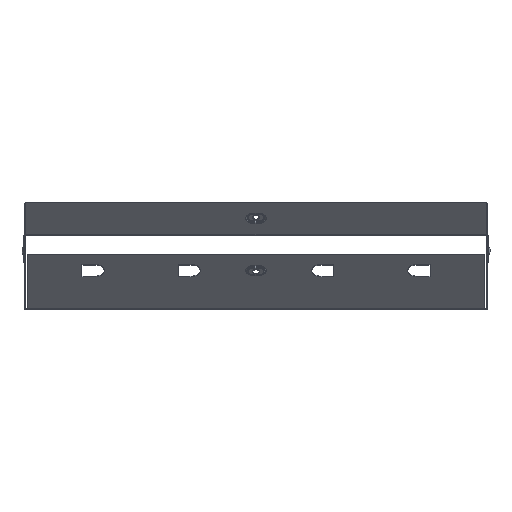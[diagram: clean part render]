
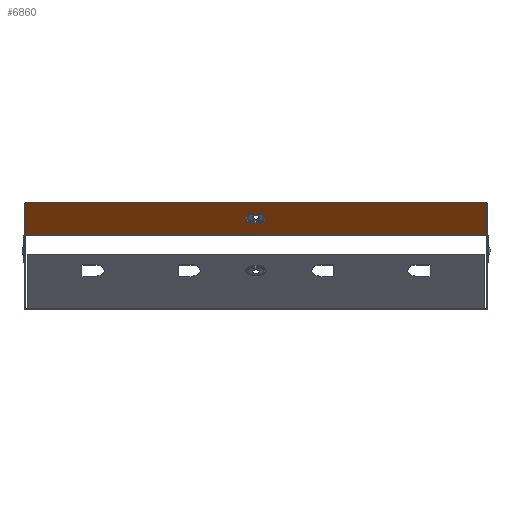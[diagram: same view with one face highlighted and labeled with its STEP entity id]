
A CAD part, top view. The second image highlights one B-rep face of the part: STEP entity #6860.
In plain terms, the highlighted planar face has unit normal (0, -0.707, 0.707).
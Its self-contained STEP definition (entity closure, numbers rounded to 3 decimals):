
#6 = VERTEX_POINT ( 'NONE', #11691 ) ;
#179 = CIRCLE ( 'NONE', #8017, 7.598 ) ;
#507 = VERTEX_POINT ( 'NONE', #793 ) ;
#708 = EDGE_CURVE ( 'NONE', #12702, #6, #8414, .T. ) ;
#793 = CARTESIAN_POINT ( 'NONE',  ( 3.5, 12.446, 76.078 ) ) ;
#865 = DIRECTION ( 'NONE',  ( 0., 0.707, -0.707 ) ) ;
#1102 = FACE_BOUND ( 'NONE', #3610, .T. ) ;
#1114 = CARTESIAN_POINT ( 'NONE',  ( -249., -0.273, 63.359 ) ) ;
#1522 = CARTESIAN_POINT ( 'NONE',  ( -3.5, 23.192, 86.823 ) ) ;
#1863 = DIRECTION ( 'NONE',  ( 0., -0.707, -0.707 ) ) ;
#1902 = CARTESIAN_POINT ( 'NONE',  ( 249., -0.273, 63.359 ) ) ;
#2143 = DIRECTION ( 'NONE',  ( -1., 0., 0. ) ) ;
#2145 = LINE ( 'NONE', #4977, #5586 ) ;
#2257 = ORIENTED_EDGE ( 'NONE', *, *, #13338, .F. ) ;
#2366 = ORIENTED_EDGE ( 'NONE', *, *, #708, .T. ) ;
#2446 = VECTOR ( 'NONE', #2143, 1000. ) ;
#2725 = CARTESIAN_POINT ( 'NONE',  ( 3.5, 17.819, 81.45 ) ) ;
#2915 = CARTESIAN_POINT ( 'NONE',  ( 249., -0.566, 63.066 ) ) ;
#2948 = CARTESIAN_POINT ( 'NONE',  ( -249., -0.566, 63.066 ) ) ;
#3074 = CARTESIAN_POINT ( 'NONE',  ( -3.5, 17.819, 81.45 ) ) ;
#3269 = VERTEX_POINT ( 'NONE', #1114 ) ;
#3610 = EDGE_LOOP ( 'NONE', ( #2257, #9289, #14068, #11388 ) ) ;
#3950 = VECTOR ( 'NONE', #7673, 1000. ) ;
#4334 = LINE ( 'NONE', #1522, #3950 ) ;
#4977 = CARTESIAN_POINT ( 'NONE',  ( -3.5, 12.446, 76.078 ) ) ;
#5298 = CARTESIAN_POINT ( 'NONE',  ( 3.5, 23.192, 86.823 ) ) ;
#5325 = DIRECTION ( 'NONE',  ( 0., -0.707, -0.707 ) ) ;
#5395 = AXIS2_PLACEMENT_3D ( 'NONE', #5547, #865, #7685 ) ;
#5449 = FACE_OUTER_BOUND ( 'NONE', #10042, .T. ) ;
#5547 = CARTESIAN_POINT ( 'NONE',  ( 249., -0.566, 63.066 ) ) ;
#5586 = VECTOR ( 'NONE', #6150, 1000. ) ;
#5678 = DIRECTION ( 'NONE',  ( -1., 0., 0. ) ) ;
#5716 = CARTESIAN_POINT ( 'NONE',  ( 249., 34.79, 98.421 ) ) ;
#6018 = VECTOR ( 'NONE', #5678, 1000. ) ;
#6150 = DIRECTION ( 'NONE',  ( 1., 0., 0. ) ) ;
#6159 = AXIS2_PLACEMENT_3D ( 'NONE', #2725, #6423, #8880 ) ;
#6423 = DIRECTION ( 'NONE',  ( 0., -0.707, 0.707 ) ) ;
#6694 = ORIENTED_EDGE ( 'NONE', *, *, #12769, .F. ) ;
#6860 = ADVANCED_FACE ( 'NONE', ( #1102, #5449 ), #10194, .F. ) ;
#7360 = EDGE_CURVE ( 'NONE', #6, #3269, #12100, .T. ) ;
#7477 = ORIENTED_EDGE ( 'NONE', *, *, #8728, .F. ) ;
#7672 = EDGE_CURVE ( 'NONE', #13164, #9117, #4334, .T. ) ;
#7673 = DIRECTION ( 'NONE',  ( -1., 0., 0. ) ) ;
#7685 = DIRECTION ( 'NONE',  ( 0., 0.707, 0.707 ) ) ;
#7886 = VERTEX_POINT ( 'NONE', #7938 ) ;
#7938 = CARTESIAN_POINT ( 'NONE',  ( -3.5, 12.446, 76.078 ) ) ;
#8017 = AXIS2_PLACEMENT_3D ( 'NONE', #3074, #8830, #1863 ) ;
#8126 = VECTOR ( 'NONE', #13542, 1000. ) ;
#8414 = LINE ( 'NONE', #9129, #2446 ) ;
#8517 = EDGE_CURVE ( 'NONE', #7886, #507, #2145, .T. ) ;
#8714 = VECTOR ( 'NONE', #5325, 1000. ) ;
#8728 = EDGE_CURVE ( 'NONE', #12702, #14979, #9810, .T. ) ;
#8830 = DIRECTION ( 'NONE',  ( 0., -0.707, 0.707 ) ) ;
#8880 = DIRECTION ( 'NONE',  ( 0., -0.707, -0.707 ) ) ;
#9117 = VERTEX_POINT ( 'NONE', #9600 ) ;
#9129 = CARTESIAN_POINT ( 'NONE',  ( 249., 34.79, 98.421 ) ) ;
#9289 = ORIENTED_EDGE ( 'NONE', *, *, #8517, .F. ) ;
#9533 = ORIENTED_EDGE ( 'NONE', *, *, #7360, .T. ) ;
#9600 = CARTESIAN_POINT ( 'NONE',  ( -3.5, 23.192, 86.823 ) ) ;
#9810 = LINE ( 'NONE', #2915, #8126 ) ;
#10042 = EDGE_LOOP ( 'NONE', ( #9533, #6694, #7477, #2366 ) ) ;
#10077 = CIRCLE ( 'NONE', #6159, 7.598 ) ;
#10194 = PLANE ( 'NONE',  #5395 ) ;
#10774 = CARTESIAN_POINT ( 'NONE',  ( 249., -0.273, 63.359 ) ) ;
#11388 = ORIENTED_EDGE ( 'NONE', *, *, #7672, .F. ) ;
#11691 = CARTESIAN_POINT ( 'NONE',  ( -249., 34.79, 98.421 ) ) ;
#11855 = EDGE_CURVE ( 'NONE', #9117, #7886, #179, .T. ) ;
#12100 = LINE ( 'NONE', #2948, #8714 ) ;
#12702 = VERTEX_POINT ( 'NONE', #5716 ) ;
#12769 = EDGE_CURVE ( 'NONE', #14979, #3269, #14488, .T. ) ;
#13164 = VERTEX_POINT ( 'NONE', #5298 ) ;
#13338 = EDGE_CURVE ( 'NONE', #507, #13164, #10077, .T. ) ;
#13542 = DIRECTION ( 'NONE',  ( 0., -0.707, -0.707 ) ) ;
#14068 = ORIENTED_EDGE ( 'NONE', *, *, #11855, .F. ) ;
#14488 = LINE ( 'NONE', #1902, #6018 ) ;
#14979 = VERTEX_POINT ( 'NONE', #10774 ) ;
